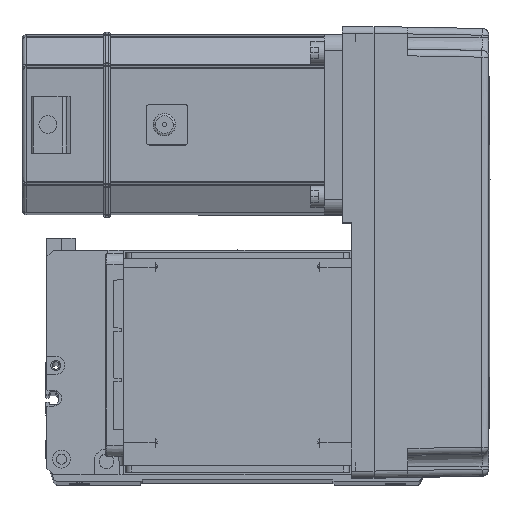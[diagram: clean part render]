
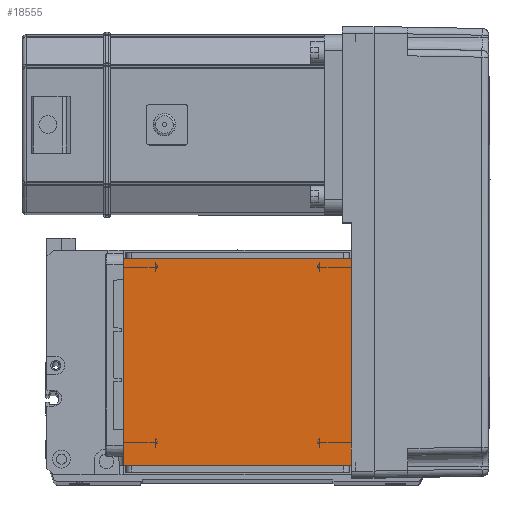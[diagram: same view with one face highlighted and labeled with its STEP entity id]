
A CAD part, top view. The second image highlights one B-rep face of the part: STEP entity #18555.
In plain terms, the highlighted planar face has unit normal (0, 0, 1).
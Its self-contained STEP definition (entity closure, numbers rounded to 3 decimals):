
#1460 = VERTEX_POINT ( 'NONE', #10904 ) ;
#3321 = CARTESIAN_POINT ( 'NONE',  ( 50.5, 20., 115. ) ) ;
#5461 = FACE_OUTER_BOUND ( 'NONE', #40250, .T. ) ;
#6869 = LINE ( 'NONE', #22059, #41172 ) ;
#7180 = PLANE ( 'NONE',  #48242 ) ;
#7878 = VECTOR ( 'NONE', #52117, 1000. ) ;
#9486 = EDGE_CURVE ( 'NONE', #16426, #1460, #25806, .T. ) ;
#10904 = CARTESIAN_POINT ( 'NONE',  ( -50.5, 20., 115. ) ) ;
#13832 = VECTOR ( 'NONE', #54442, 1000. ) ;
#15209 = DIRECTION ( 'NONE',  ( 0., 0., 1. ) ) ;
#15642 = EDGE_CURVE ( 'NONE', #16426, #28236, #49925, .T. ) ;
#16426 = VERTEX_POINT ( 'NONE', #48095 ) ;
#18329 = DIRECTION ( 'NONE',  ( 0., 1., 0. ) ) ;
#18555 = ADVANCED_FACE ( 'NONE', ( #5461 ), #7180, .T. ) ;
#20867 = CARTESIAN_POINT ( 'NONE',  ( -70.004, 20., 115. ) ) ;
#22059 = CARTESIAN_POINT ( 'NONE',  ( 50.5, 122., 115. ) ) ;
#22218 = ORIENTED_EDGE ( 'NONE', *, *, #15642, .F. ) ;
#22400 = ORIENTED_EDGE ( 'NONE', *, *, #52664, .F. ) ;
#24287 = ORIENTED_EDGE ( 'NONE', *, *, #9486, .T. ) ;
#25806 = LINE ( 'NONE', #55227, #13832 ) ;
#27588 = VECTOR ( 'NONE', #34926, 1000. ) ;
#27750 = CARTESIAN_POINT ( 'NONE',  ( 50.5, 111.5, 115. ) ) ;
#28236 = VERTEX_POINT ( 'NONE', #27750 ) ;
#28327 = LINE ( 'NONE', #20867, #7878 ) ;
#28423 = DIRECTION ( 'NONE',  ( 1., 0., 0. ) ) ;
#34631 = EDGE_CURVE ( 'NONE', #50206, #28236, #6869, .T. ) ;
#34926 = DIRECTION ( 'NONE',  ( 1., 0., 0. ) ) ;
#40206 = CARTESIAN_POINT ( 'NONE',  ( -70.004, 111.5, 115. ) ) ;
#40250 = EDGE_LOOP ( 'NONE', ( #22218, #24287, #22400, #50588 ) ) ;
#41172 = VECTOR ( 'NONE', #18329, 1000. ) ;
#48095 = CARTESIAN_POINT ( 'NONE',  ( -50.5, 111.5, 115. ) ) ;
#48242 = AXIS2_PLACEMENT_3D ( 'NONE', #55139, #15209, #28423 ) ;
#49925 = LINE ( 'NONE', #40206, #27588 ) ;
#50206 = VERTEX_POINT ( 'NONE', #3321 ) ;
#50588 = ORIENTED_EDGE ( 'NONE', *, *, #34631, .T. ) ;
#52117 = DIRECTION ( 'NONE',  ( -1., 0., 0. ) ) ;
#52664 = EDGE_CURVE ( 'NONE', #50206, #1460, #28327, .T. ) ;
#54442 = DIRECTION ( 'NONE',  ( 0., -1., 0. ) ) ;
#55139 = CARTESIAN_POINT ( 'NONE',  ( 0., 0., 115. ) ) ;
#55227 = CARTESIAN_POINT ( 'NONE',  ( -50.5, 122., 115. ) ) ;
